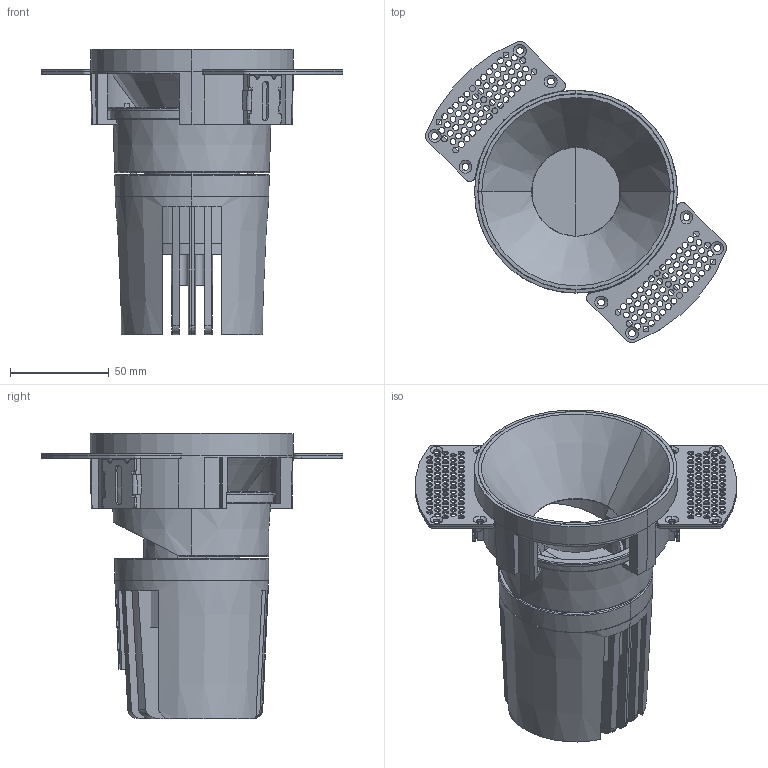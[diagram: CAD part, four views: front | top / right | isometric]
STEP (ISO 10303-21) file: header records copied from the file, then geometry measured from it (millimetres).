
FILE_DESCRIPTION(/* description */ (''),/* implementation_level */ '2;1');
FILE_NAME(/* name */ 'C:\Users\FrancoSartori\Documents\FARO\01_En Proceso\000_PRO\00_DEEP\03_Publicación\DEEP78 R SM.stp',/* time_stamp */ '2021-11-16T08:32:50+01:00',/* author */ ('FrancoSartori'),/* organization */ (''),/* preprocessor_version */ 'ST-DEVELOPER v18.1',/* originating_system */ 'AutoCAD Mechanical',/* authorisation */ '');
FILE_SCHEMA (('AUTOMOTIVE_DESIGN { 1 0 10303 214 3 1 1 }'));
Length unit declared in the file: millimetre
Products named in the file (1): Product
Bounding box: 152.91 x 152.91 x 144.7 mm (x, y, z)
Volume: 232446.7 mm3; surface area: 190700.4 mm2
Topology: 15 solids, 15 shells, 946 faces, 2635 edges, 1684 vertices
Faces by surface type: cylinder 552, plane 287, cone 54, bspline 34, torus 19
Entity records: 35791 total; most frequent: CARTESIAN_POINT 10542, ORIENTED_EDGE 5270, DIRECTION 5263, EDGE_CURVE 2635, AXIS2_PLACEMENT_3D 2046, VERTEX_POINT 1684, EDGE_LOOP 1283, LINE 1171
